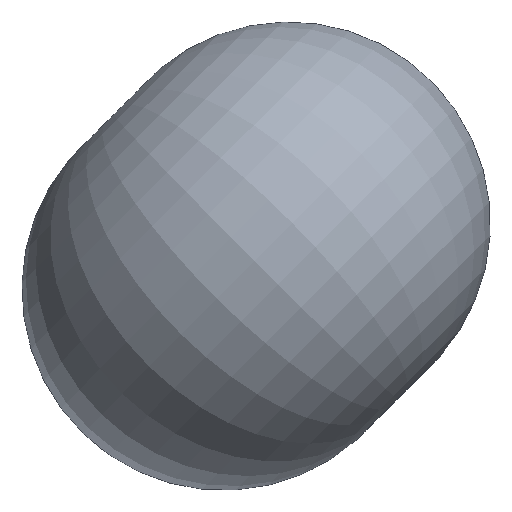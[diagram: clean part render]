
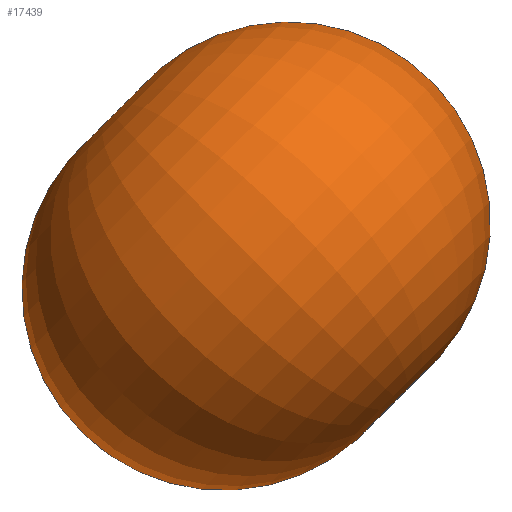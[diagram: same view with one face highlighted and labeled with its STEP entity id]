
A CAD part, top view. The second image highlights one B-rep face of the part: STEP entity #17439.
In plain terms, the highlighted toroidal (fillet/blend) face has major radius 89.489 mm and minor radius 383.355 mm.
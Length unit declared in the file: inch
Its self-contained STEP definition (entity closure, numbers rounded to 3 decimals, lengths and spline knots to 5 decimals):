
#64=DEGENERATE_TOROIDAL_SURFACE('',#8064,3.5232,15.0927,
 .F.);
#4343=VERTEX_POINT('',#33752);
#4345=VERTEX_POINT('',#33793);
#6040=DIRECTION('',(0.,-1.,0.));
#6041=DIRECTION('',(0.,0.,-0.632));
#6042=DIRECTION('',(0.,1.,0.));
#6043=DIRECTION('',(0.,0.,2.387));
#6044=DIRECTION('',(0.,1.,0.));
#8062=AXIS2_PLACEMENT_3D('',#33751,#6040,#6041);
#8063=AXIS2_PLACEMENT_3D('',#33792,#6042,#6043);
#8064=AXIS2_PLACEMENT_3D('',#33794,#6044,$);
#9017=CIRCLE('',#8062,0.63244);
#9018=CIRCLE('',#8063,2.38725);
#10137=EDGE_CURVE('',#4343,#4343,#9017,.T.);
#10139=EDGE_CURVE('',#4345,#4345,#9018,.T.);
#12966=ORIENTED_EDGE('',*,*,#10137,.T.);
#12967=ORIENTED_EDGE('',*,*,#10139,.T.);
#15723=EDGE_LOOP('',(#12966));
#15724=EDGE_LOOP('',(#12967));
#16593=FACE_BOUND('',#15723,.T.);
#16594=FACE_BOUND('',#15724,.T.);
#17439=ADVANCED_FACE('',(#16593,#16594),#64,.T.);
#33751=CARTESIAN_POINT('',(3.95491,1.75,-3.86095));
#33752=CARTESIAN_POINT('',(3.95491,1.75,-3.22851));
#33792=CARTESIAN_POINT('',(3.95491,1.12795,-3.86095));
#33793=CARTESIAN_POINT('',(3.95491,1.12795,-1.4737));
#33794=CARTESIAN_POINT('',(3.95491,-12.75932,-3.86095));
